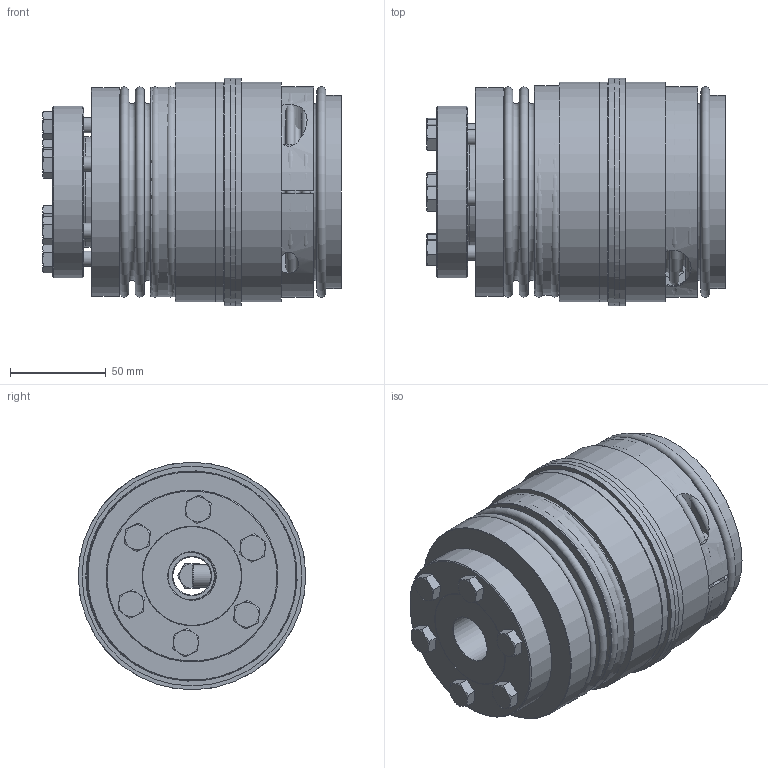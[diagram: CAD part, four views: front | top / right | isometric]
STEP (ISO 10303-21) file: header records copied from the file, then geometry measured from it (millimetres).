
FILE_DESCRIPTION( ( 'Unknown' ), '1' );
FILE_NAME( 'C:/Dokumente und Einstellungen/SKarpstein/Desktop/Korrigierte 3D Modelle/KBK-B-AK/KBK-BAK-300-141.stp', 'Unknown', ( 'Unknown' ), ( 'Unknown' ), 'XStep 1.0', 'Unknown', ' ' );
FILE_SCHEMA( ( 'automotive_design' ) );
Length unit declared in the file: millimetre
Products named in the file (13): Assem1; Assem2; Assem3; Hex Screw GradeC_DIN_ISO 4018 - M8 x 30-NN; DR300_Standard; BA300_Standard; Zylinderschraube DIN 912_2_0; Stellring 300; Druckring 300; Kupplung L-K-300 Grundkörper; Klemmnabe 300; Flansch BK300; BK300_Standard_0
Bounding box: 156.01 x 119 x 119 mm (x, y, z)
Volume: 1906419.9 mm3; surface area: 534268.2 mm2
Topology: 34 solids, 34 shells, 552 faces, 1149 edges, 735 vertices
Faces by surface type: plane 242, cone 149, cylinder 129, torus 32
Full cylindrical faces by diameter (mm): 3.242 x6, 5.2 x6, 6.8 x18, 8 x13, 9 x18, 10.106 x2, 12 x3, 12.5 x2, 18 x3, 19 x2, 20 x2, 25 x3, 52 x2, 55 x4, 57.995 x3, 60 x2, 70 x2, 76 x4, 83.5 x2, 88 x2, 90 x5, 98 x2, 98.5 x2, 99.8 x4, 101 x4, 109.5 x3, 115 x4, 119 x2
Entity records: 4536 total; most frequent: CARTESIAN_POINT 1157, DIRECTION 700, ORIENTED_EDGE 436, AXIS2_PLACEMENT_3D 331, EDGE_LOOP 324, FACE_OUTER_BOUND 225, EDGE_CURVE 218, VERTEX_POINT 192
